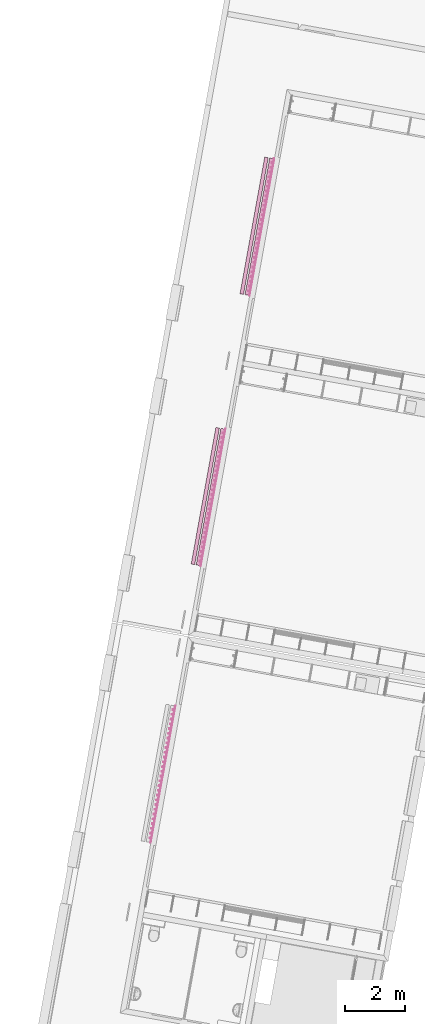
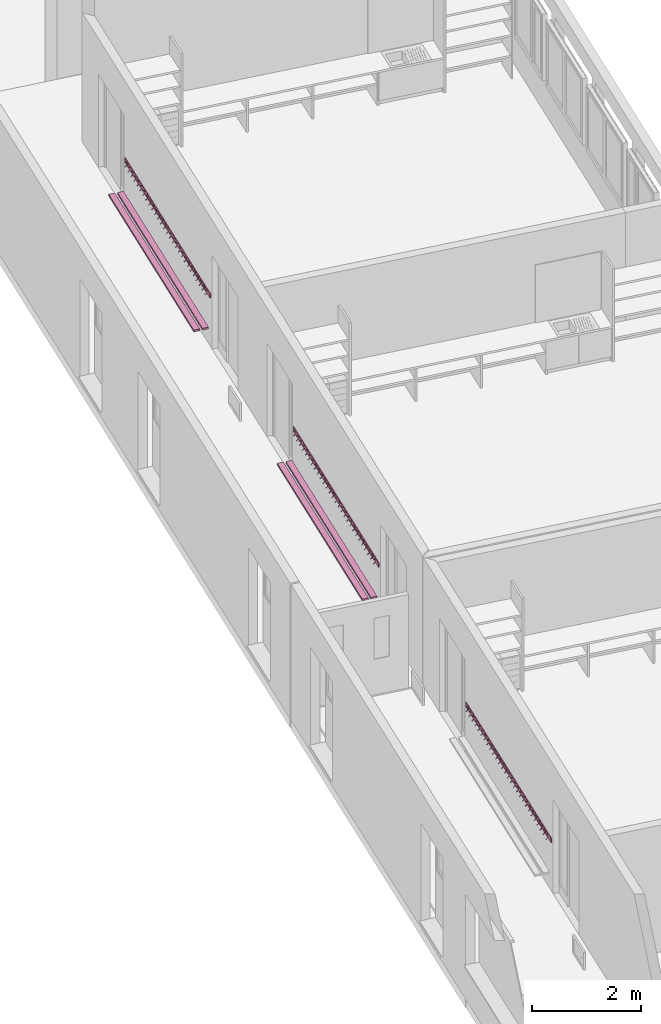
# One storey, part 6 of 52: 5 furnishings.
"""IFC2X3 building model written with IfcOpenShell, lengths in metres."""

from ifc_helpers import new_model, entity, si_unit, converted_unit, derived_unit, money_unit, direction, frame, origin_with_axes, place, context, subcontext, project, spatial, faceted_brep, source, transform, mapped, material, type_object, element, save


model = new_model("IFC2X3")

# Units and contexts
model_context = context("Model", 3, precision=1e-05, world=origin_with_axes(), true_north=direction((0.0, 1.0)))
body_context = subcontext(model_context, "Body", "Model", "MODEL_VIEW")
ifc_project = project(units=[si_unit("LENGTHUNIT", "METRE"), si_unit("AREAUNIT", "SQUARE_METRE"), si_unit("VOLUMEUNIT", "CUBIC_METRE"), converted_unit("PLANEANGLEUNIT", "DEGREE", entity("IfcPlaneAngleMeasure", 0.0174532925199), si_unit("PLANEANGLEUNIT", "RADIAN"), dimensions=[0, 0, 0, 0, 0, 0, 0]), money_unit("CHF"), converted_unit("TIMEUNIT", "Year", entity("IfcTimeMeasure", 31556926.0), si_unit("TIMEUNIT", "SECOND"), dimensions=[0, 0, 1, 0, 0, 0, 0]), si_unit("MASSUNIT", "GRAM", prefix="KILO"), si_unit("THERMODYNAMICTEMPERATUREUNIT", "DEGREE_CELSIUS"), si_unit("LUMINOUSINTENSITYUNIT", "LUMEN"), si_unit("ENERGYUNIT", "JOULE", prefix="MEGA"), derived_unit("THERMALCONDUCTANCEUNIT", [(si_unit("POWERUNIT", "WATT"), 1), (si_unit("LENGTHUNIT", "METRE"), -1), (si_unit("THERMODYNAMICTEMPERATUREUNIT", "KELVIN"), -1)]), derived_unit("SPECIFICHEATCAPACITYUNIT", [(si_unit("ENERGYUNIT", "JOULE"), 1), (si_unit("MASSUNIT", "GRAM", prefix="KILO"), -1), (si_unit("THERMODYNAMICTEMPERATUREUNIT", "KELVIN"), -1)]), derived_unit("MASSDENSITYUNIT", [(si_unit("MASSUNIT", "GRAM", prefix="KILO"), 1), (si_unit("VOLUMEUNIT", "CUBIC_METRE"), -1)])], contexts=[model_context])

# Site, building, storey
site_placement = place(None, frame((0.0, 0.0, 0.0), z_axis=(0.0, 0.0, 1.0), x_axis=(-0.177771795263, -0.984071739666, 0.0)))
site = spatial("IfcSite", under=ifc_project, at=site_placement, Name="Site", CompositionType="ELEMENT")
building_placement = place(site_placement, origin_with_axes())
building = spatial("IfcBuilding", under=site, at=building_placement, Name="Bâtiment", CompositionType="ELEMENT")
storey_placement = place(building_placement, frame((0.0, 0.0, 3.2), z_axis=(0.0, 0.0, 1.0), x_axis=(1.0, 0.0, 0.0)))
storey = spatial("IfcBuildingStorey", under=building, at=storey_placement, Name="R+1", CompositionType="ELEMENT", Elevation=3.2)

# Furnishings
ifc_material_1 = material(Name="Matériau de construction IFC")
furnishing_element_type_1 = type_object("IfcFurnishingElementType", Name="Râtelier mural 21")
shared_shape_1 = source(origin_with_axes(), body_context, "Body", "Brep", [
    faceted_brep([(-2.33000000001, 0.0, 0.0), (2.33000000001, 0.0, 0.0), (2.33000000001, -0.02, 0.0), (-2.33000000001, -0.02, 0.0), (-2.33000000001, 0.0, 0.1), (2.33000000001, 0.0, 0.1), (2.33000000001, -0.02, 0.1), (-2.33000000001, -0.02, 0.1)], [[[0, 1, 2, 3]], [[1, 0, 4, 5]], [[2, 1, 5, 6]], [[3, 2, 6, 7]], [[0, 3, 7, 4]], [[5, 4, 7, 6]]]),
    faceted_brep([(2.16862068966, -0.06, -0.015), (2.16862068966, -0.02, 0.025), (2.18862068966, -0.02, 0.025), (2.18862068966, -0.06, -0.015), (2.16862068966, -0.07, 0.0), (2.16862068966, -0.0675, 0.0), (2.16862068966, -0.06, -0.01), (2.16862068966, -0.025, 0.03), (2.16862068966, -0.025, 0.07), (2.16862068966, -0.06, 0.11), (2.16862068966, -0.06, 0.115), (2.16862068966, -0.02, 0.075), (2.18862068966, -0.02, 0.075), (2.18862068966, -0.06, 0.115), (2.18862068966, -0.06, 0.11), (2.18862068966, -0.025, 0.07), (2.18862068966, -0.025, 0.03), (2.18862068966, -0.06, -0.01), (2.18862068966, -0.0675, 0.0), (2.18862068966, -0.07, 0.0)], [[[0, 1, 2, 3]], [[0, 4, 5, 6, 7, 8, 9, 10, 11, 1]], [[1, 11, 12, 2]], [[3, 2, 12, 13, 14, 15, 16, 17, 18, 19]], [[4, 0, 3, 19]], [[5, 4, 19, 18]], [[6, 5, 18, 17]], [[7, 6, 17, 16]], [[8, 7, 16, 15]], [[9, 8, 15, 14]], [[10, 9, 14, 13]], [[11, 10, 13, 12]]]),
    faceted_brep([(2.00724137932, -0.06, -0.015), (2.00724137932, -0.02, 0.025), (2.02724137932, -0.02, 0.025), (2.02724137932, -0.06, -0.015), (2.00724137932, -0.07, 0.0), (2.00724137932, -0.0675, 0.0), (2.00724137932, -0.06, -0.01), (2.00724137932, -0.025, 0.03), (2.00724137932, -0.025, 0.07), (2.00724137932, -0.06, 0.11), (2.00724137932, -0.06, 0.115), (2.00724137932, -0.02, 0.075), (2.02724137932, -0.02, 0.075), (2.02724137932, -0.06, 0.115), (2.02724137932, -0.06, 0.11), (2.02724137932, -0.025, 0.07), (2.02724137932, -0.025, 0.03), (2.02724137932, -0.06, -0.01), (2.02724137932, -0.0675, 0.0), (2.02724137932, -0.07, 0.0)], [[[0, 1, 2, 3]], [[0, 4, 5, 6, 7, 8, 9, 10, 11, 1]], [[1, 11, 12, 2]], [[3, 2, 12, 13, 14, 15, 16, 17, 18, 19]], [[4, 0, 3, 19]], [[5, 4, 19, 18]], [[6, 5, 18, 17]], [[7, 6, 17, 16]], [[8, 7, 16, 15]], [[9, 8, 15, 14]], [[10, 9, 14, 13]], [[11, 10, 13, 12]]]),
    faceted_brep([(1.84586206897, -0.06, -0.015), (1.84586206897, -0.02, 0.025), (1.86586206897, -0.02, 0.025), (1.86586206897, -0.06, -0.015), (1.84586206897, -0.07, 0.0), (1.84586206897, -0.0675, 0.0), (1.84586206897, -0.06, -0.01), (1.84586206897, -0.025, 0.03), (1.84586206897, -0.025, 0.07), (1.84586206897, -0.06, 0.11), (1.84586206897, -0.06, 0.115), (1.84586206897, -0.02, 0.075), (1.86586206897, -0.02, 0.075), (1.86586206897, -0.06, 0.115), (1.86586206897, -0.06, 0.11), (1.86586206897, -0.025, 0.07), (1.86586206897, -0.025, 0.03), (1.86586206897, -0.06, -0.01), (1.86586206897, -0.0675, 0.0), (1.86586206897, -0.07, 0.0)], [[[0, 1, 2, 3]], [[0, 4, 5, 6, 7, 8, 9, 10, 11, 1]], [[1, 11, 12, 2]], [[3, 2, 12, 13, 14, 15, 16, 17, 18, 19]], [[4, 0, 3, 19]], [[5, 4, 19, 18]], [[6, 5, 18, 17]], [[7, 6, 17, 16]], [[8, 7, 16, 15]], [[9, 8, 15, 14]], [[10, 9, 14, 13]], [[11, 10, 13, 12]]]),
    faceted_brep([(1.68448275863, -0.06, -0.015), (1.68448275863, -0.02, 0.025), (1.70448275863, -0.02, 0.025), (1.70448275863, -0.06, -0.015), (1.68448275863, -0.07, 0.0), (1.68448275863, -0.0675, 0.0), (1.68448275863, -0.06, -0.01), (1.68448275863, -0.025, 0.03), (1.68448275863, -0.025, 0.07), (1.68448275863, -0.06, 0.11), (1.68448275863, -0.06, 0.115), (1.68448275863, -0.02, 0.075), (1.70448275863, -0.02, 0.075), (1.70448275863, -0.06, 0.115), (1.70448275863, -0.06, 0.11), (1.70448275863, -0.025, 0.07), (1.70448275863, -0.025, 0.03), (1.70448275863, -0.06, -0.01), (1.70448275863, -0.0675, 0.0), (1.70448275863, -0.07, 0.0)], [[[0, 1, 2, 3]], [[0, 4, 5, 6, 7, 8, 9, 10, 11, 1]], [[1, 11, 12, 2]], [[3, 2, 12, 13, 14, 15, 16, 17, 18, 19]], [[4, 0, 3, 19]], [[5, 4, 19, 18]], [[6, 5, 18, 17]], [[7, 6, 17, 16]], [[8, 7, 16, 15]], [[9, 8, 15, 14]], [[10, 9, 14, 13]], [[11, 10, 13, 12]]]),
    faceted_brep([(1.52310344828, -0.06, -0.015), (1.52310344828, -0.02, 0.025), (1.54310344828, -0.02, 0.025), (1.54310344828, -0.06, -0.015), (1.52310344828, -0.07, 0.0), (1.52310344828, -0.0675, 0.0), (1.52310344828, -0.06, -0.01), (1.52310344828, -0.025, 0.03), (1.52310344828, -0.025, 0.07), (1.52310344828, -0.06, 0.11), (1.52310344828, -0.06, 0.115), (1.52310344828, -0.02, 0.075), (1.54310344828, -0.02, 0.075), (1.54310344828, -0.06, 0.115), (1.54310344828, -0.06, 0.11), (1.54310344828, -0.025, 0.07), (1.54310344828, -0.025, 0.03), (1.54310344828, -0.06, -0.01), (1.54310344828, -0.0675, 0.0), (1.54310344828, -0.07, 0.0)], [[[0, 1, 2, 3]], [[0, 4, 5, 6, 7, 8, 9, 10, 11, 1]], [[1, 11, 12, 2]], [[3, 2, 12, 13, 14, 15, 16, 17, 18, 19]], [[4, 0, 3, 19]], [[5, 4, 19, 18]], [[6, 5, 18, 17]], [[7, 6, 17, 16]], [[8, 7, 16, 15]], [[9, 8, 15, 14]], [[10, 9, 14, 13]], [[11, 10, 13, 12]]]),
    faceted_brep([(1.36172413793, -0.06, -0.015), (1.36172413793, -0.02, 0.025), (1.38172413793, -0.02, 0.025), (1.38172413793, -0.06, -0.015), (1.36172413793, -0.07, 0.0), (1.36172413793, -0.0675, 0.0), (1.36172413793, -0.06, -0.01), (1.36172413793, -0.025, 0.03), (1.36172413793, -0.025, 0.07), (1.36172413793, -0.06, 0.11), (1.36172413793, -0.06, 0.115), (1.36172413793, -0.02, 0.075), (1.38172413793, -0.02, 0.075), (1.38172413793, -0.06, 0.115), (1.38172413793, -0.06, 0.11), (1.38172413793, -0.025, 0.07), (1.38172413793, -0.025, 0.03), (1.38172413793, -0.06, -0.01), (1.38172413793, -0.0675, 0.0), (1.38172413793, -0.07, 0.0)], [[[0, 1, 2, 3]], [[0, 4, 5, 6, 7, 8, 9, 10, 11, 1]], [[1, 11, 12, 2]], [[3, 2, 12, 13, 14, 15, 16, 17, 18, 19]], [[4, 0, 3, 19]], [[5, 4, 19, 18]], [[6, 5, 18, 17]], [[7, 6, 17, 16]], [[8, 7, 16, 15]], [[9, 8, 15, 14]], [[10, 9, 14, 13]], [[11, 10, 13, 12]]]),
    faceted_brep([(1.20034482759, -0.06, -0.015), (1.20034482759, -0.02, 0.025), (1.22034482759, -0.02, 0.025), (1.22034482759, -0.06, -0.015), (1.20034482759, -0.07, 0.0), (1.20034482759, -0.0675, 0.0), (1.20034482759, -0.06, -0.01), (1.20034482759, -0.025, 0.03), (1.20034482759, -0.025, 0.07), (1.20034482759, -0.06, 0.11), (1.20034482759, -0.06, 0.115), (1.20034482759, -0.02, 0.075), (1.22034482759, -0.02, 0.075), (1.22034482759, -0.06, 0.115), (1.22034482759, -0.06, 0.11), (1.22034482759, -0.025, 0.07), (1.22034482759, -0.025, 0.03), (1.22034482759, -0.06, -0.01), (1.22034482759, -0.0675, 0.0), (1.22034482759, -0.07, 0.0)], [[[0, 1, 2, 3]], [[0, 4, 5, 6, 7, 8, 9, 10, 11, 1]], [[1, 11, 12, 2]], [[3, 2, 12, 13, 14, 15, 16, 17, 18, 19]], [[4, 0, 3, 19]], [[5, 4, 19, 18]], [[6, 5, 18, 17]], [[7, 6, 17, 16]], [[8, 7, 16, 15]], [[9, 8, 15, 14]], [[10, 9, 14, 13]], [[11, 10, 13, 12]]]),
    faceted_brep([(1.03896551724, -0.06, -0.015), (1.03896551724, -0.02, 0.025), (1.05896551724, -0.02, 0.025), (1.05896551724, -0.06, -0.015), (1.03896551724, -0.07, 0.0), (1.03896551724, -0.0675, 0.0), (1.03896551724, -0.06, -0.01), (1.03896551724, -0.025, 0.03), (1.03896551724, -0.025, 0.07), (1.03896551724, -0.06, 0.11), (1.03896551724, -0.06, 0.115), (1.03896551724, -0.02, 0.075), (1.05896551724, -0.02, 0.075), (1.05896551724, -0.06, 0.115), (1.05896551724, -0.06, 0.11), (1.05896551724, -0.025, 0.07), (1.05896551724, -0.025, 0.03), (1.05896551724, -0.06, -0.01), (1.05896551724, -0.0675, 0.0), (1.05896551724, -0.07, 0.0)], [[[0, 1, 2, 3]], [[0, 4, 5, 6, 7, 8, 9, 10, 11, 1]], [[1, 11, 12, 2]], [[3, 2, 12, 13, 14, 15, 16, 17, 18, 19]], [[4, 0, 3, 19]], [[5, 4, 19, 18]], [[6, 5, 18, 17]], [[7, 6, 17, 16]], [[8, 7, 16, 15]], [[9, 8, 15, 14]], [[10, 9, 14, 13]], [[11, 10, 13, 12]]]),
    faceted_brep([(0.877586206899, -0.06, -0.015), (0.877586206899, -0.02, 0.025), (0.897586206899, -0.02, 0.025), (0.897586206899, -0.06, -0.015), (0.877586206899, -0.07, 0.0), (0.877586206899, -0.0675, 0.0), (0.877586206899, -0.06, -0.01), (0.877586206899, -0.025, 0.03), (0.877586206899, -0.025, 0.07), (0.877586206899, -0.06, 0.11), (0.877586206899, -0.06, 0.115), (0.877586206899, -0.02, 0.075), (0.897586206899, -0.02, 0.075), (0.897586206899, -0.06, 0.115), (0.897586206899, -0.06, 0.11), (0.897586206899, -0.025, 0.07), (0.897586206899, -0.025, 0.03), (0.897586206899, -0.06, -0.01), (0.897586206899, -0.0675, 0.0), (0.897586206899, -0.07, 0.0)], [[[0, 1, 2, 3]], [[0, 4, 5, 6, 7, 8, 9, 10, 11, 1]], [[1, 11, 12, 2]], [[3, 2, 12, 13, 14, 15, 16, 17, 18, 19]], [[4, 0, 3, 19]], [[5, 4, 19, 18]], [[6, 5, 18, 17]], [[7, 6, 17, 16]], [[8, 7, 16, 15]], [[9, 8, 15, 14]], [[10, 9, 14, 13]], [[11, 10, 13, 12]]]),
    faceted_brep([(0.716206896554, -0.06, -0.015), (0.716206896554, -0.02, 0.025), (0.736206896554, -0.02, 0.025), (0.736206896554, -0.06, -0.015), (0.716206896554, -0.07, 0.0), (0.716206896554, -0.0675, 0.0), (0.716206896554, -0.06, -0.01), (0.716206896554, -0.025, 0.03), (0.716206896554, -0.025, 0.07), (0.716206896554, -0.06, 0.11), (0.716206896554, -0.06, 0.115), (0.716206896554, -0.02, 0.075), (0.736206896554, -0.02, 0.075), (0.736206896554, -0.06, 0.115), (0.736206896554, -0.06, 0.11), (0.736206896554, -0.025, 0.07), (0.736206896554, -0.025, 0.03), (0.736206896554, -0.06, -0.01), (0.736206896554, -0.0675, 0.0), (0.736206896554, -0.07, 0.0)], [[[0, 1, 2, 3]], [[0, 4, 5, 6, 7, 8, 9, 10, 11, 1]], [[1, 11, 12, 2]], [[3, 2, 12, 13, 14, 15, 16, 17, 18, 19]], [[4, 0, 3, 19]], [[5, 4, 19, 18]], [[6, 5, 18, 17]], [[7, 6, 17, 16]], [[8, 7, 16, 15]], [[9, 8, 15, 14]], [[10, 9, 14, 13]], [[11, 10, 13, 12]]]),
    faceted_brep([(0.554827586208, -0.06, -0.015), (0.554827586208, -0.02, 0.025), (0.574827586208, -0.02, 0.025), (0.574827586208, -0.06, -0.015), (0.554827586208, -0.07, 0.0), (0.554827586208, -0.0675, 0.0), (0.554827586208, -0.06, -0.01), (0.554827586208, -0.025, 0.03), (0.554827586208, -0.025, 0.07), (0.554827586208, -0.06, 0.11), (0.554827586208, -0.06, 0.115), (0.554827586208, -0.02, 0.075), (0.574827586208, -0.02, 0.075), (0.574827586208, -0.06, 0.115), (0.574827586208, -0.06, 0.11), (0.574827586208, -0.025, 0.07), (0.574827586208, -0.025, 0.03), (0.574827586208, -0.06, -0.01), (0.574827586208, -0.0675, 0.0), (0.574827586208, -0.07, 0.0)], [[[0, 1, 2, 3]], [[0, 4, 5, 6, 7, 8, 9, 10, 11, 1]], [[1, 11, 12, 2]], [[3, 2, 12, 13, 14, 15, 16, 17, 18, 19]], [[4, 0, 3, 19]], [[5, 4, 19, 18]], [[6, 5, 18, 17]], [[7, 6, 17, 16]], [[8, 7, 16, 15]], [[9, 8, 15, 14]], [[10, 9, 14, 13]], [[11, 10, 13, 12]]]),
    faceted_brep([(0.393448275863, -0.06, -0.015), (0.393448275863, -0.02, 0.025), (0.413448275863, -0.02, 0.025), (0.413448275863, -0.06, -0.015), (0.393448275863, -0.07, 0.0), (0.393448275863, -0.0675, 0.0), (0.393448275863, -0.06, -0.01), (0.393448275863, -0.025, 0.03), (0.393448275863, -0.025, 0.07), (0.393448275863, -0.06, 0.11), (0.393448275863, -0.06, 0.115), (0.393448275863, -0.02, 0.075), (0.413448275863, -0.02, 0.075), (0.413448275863, -0.06, 0.115), (0.413448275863, -0.06, 0.11), (0.413448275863, -0.025, 0.07), (0.413448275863, -0.025, 0.03), (0.413448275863, -0.06, -0.01), (0.413448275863, -0.0675, 0.0), (0.413448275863, -0.07, 0.0)], [[[0, 1, 2, 3]], [[0, 4, 5, 6, 7, 8, 9, 10, 11, 1]], [[1, 11, 12, 2]], [[3, 2, 12, 13, 14, 15, 16, 17, 18, 19]], [[4, 0, 3, 19]], [[5, 4, 19, 18]], [[6, 5, 18, 17]], [[7, 6, 17, 16]], [[8, 7, 16, 15]], [[9, 8, 15, 14]], [[10, 9, 14, 13]], [[11, 10, 13, 12]]]),
    faceted_brep([(0.232068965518, -0.06, -0.015), (0.232068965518, -0.02, 0.025), (0.252068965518, -0.02, 0.025), (0.252068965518, -0.06, -0.015), (0.232068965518, -0.07, 0.0), (0.232068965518, -0.0675, 0.0), (0.232068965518, -0.06, -0.01), (0.232068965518, -0.025, 0.03), (0.232068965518, -0.025, 0.07), (0.232068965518, -0.06, 0.11), (0.232068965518, -0.06, 0.115), (0.232068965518, -0.02, 0.075), (0.252068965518, -0.02, 0.075), (0.252068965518, -0.06, 0.115), (0.252068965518, -0.06, 0.11), (0.252068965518, -0.025, 0.07), (0.252068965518, -0.025, 0.03), (0.252068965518, -0.06, -0.01), (0.252068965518, -0.0675, 0.0), (0.252068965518, -0.07, 0.0)], [[[0, 1, 2, 3]], [[0, 4, 5, 6, 7, 8, 9, 10, 11, 1]], [[1, 11, 12, 2]], [[3, 2, 12, 13, 14, 15, 16, 17, 18, 19]], [[4, 0, 3, 19]], [[5, 4, 19, 18]], [[6, 5, 18, 17]], [[7, 6, 17, 16]], [[8, 7, 16, 15]], [[9, 8, 15, 14]], [[10, 9, 14, 13]], [[11, 10, 13, 12]]]),
    faceted_brep([(0.0706896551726, -0.06, -0.015), (0.0706896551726, -0.02, 0.025), (0.0906896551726, -0.02, 0.025), (0.0906896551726, -0.06, -0.015), (0.0706896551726, -0.07, 0.0), (0.0706896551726, -0.0675, 0.0), (0.0706896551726, -0.06, -0.01), (0.0706896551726, -0.025, 0.03), (0.0706896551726, -0.025, 0.07), (0.0706896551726, -0.06, 0.11), (0.0706896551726, -0.06, 0.115), (0.0706896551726, -0.02, 0.075), (0.0906896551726, -0.02, 0.075), (0.0906896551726, -0.06, 0.115), (0.0906896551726, -0.06, 0.11), (0.0906896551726, -0.025, 0.07), (0.0906896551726, -0.025, 0.03), (0.0906896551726, -0.06, -0.01), (0.0906896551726, -0.0675, 0.0), (0.0906896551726, -0.07, 0.0)], [[[0, 1, 2, 3]], [[0, 4, 5, 6, 7, 8, 9, 10, 11, 1]], [[1, 11, 12, 2]], [[3, 2, 12, 13, 14, 15, 16, 17, 18, 19]], [[4, 0, 3, 19]], [[5, 4, 19, 18]], [[6, 5, 18, 17]], [[7, 6, 17, 16]], [[8, 7, 16, 15]], [[9, 8, 15, 14]], [[10, 9, 14, 13]], [[11, 10, 13, 12]]]),
    faceted_brep([(-0.0906896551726, -0.06, -0.015), (-0.0906896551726, -0.02, 0.025), (-0.0706896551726, -0.02, 0.025), (-0.0706896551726, -0.06, -0.015), (-0.0906896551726, -0.07, 0.0), (-0.0906896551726, -0.0675, 0.0), (-0.0906896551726, -0.06, -0.01), (-0.0906896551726, -0.025, 0.03), (-0.0906896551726, -0.025, 0.07), (-0.0906896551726, -0.06, 0.11), (-0.0906896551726, -0.06, 0.115), (-0.0906896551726, -0.02, 0.075), (-0.0706896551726, -0.02, 0.075), (-0.0706896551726, -0.06, 0.115), (-0.0706896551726, -0.06, 0.11), (-0.0706896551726, -0.025, 0.07), (-0.0706896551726, -0.025, 0.03), (-0.0706896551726, -0.06, -0.01), (-0.0706896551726, -0.0675, 0.0), (-0.0706896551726, -0.07, 0.0)], [[[0, 1, 2, 3]], [[0, 4, 5, 6, 7, 8, 9, 10, 11, 1]], [[1, 11, 12, 2]], [[3, 2, 12, 13, 14, 15, 16, 17, 18, 19]], [[4, 0, 3, 19]], [[5, 4, 19, 18]], [[6, 5, 18, 17]], [[7, 6, 17, 16]], [[8, 7, 16, 15]], [[9, 8, 15, 14]], [[10, 9, 14, 13]], [[11, 10, 13, 12]]]),
    faceted_brep([(-0.252068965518, -0.06, -0.015), (-0.252068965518, -0.02, 0.025), (-0.232068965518, -0.02, 0.025), (-0.232068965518, -0.06, -0.015), (-0.252068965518, -0.07, 0.0), (-0.252068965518, -0.0675, 0.0), (-0.252068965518, -0.06, -0.01), (-0.252068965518, -0.025, 0.03), (-0.252068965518, -0.025, 0.07), (-0.252068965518, -0.06, 0.11), (-0.252068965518, -0.06, 0.115), (-0.252068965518, -0.02, 0.075), (-0.232068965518, -0.02, 0.075), (-0.232068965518, -0.06, 0.115), (-0.232068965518, -0.06, 0.11), (-0.232068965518, -0.025, 0.07), (-0.232068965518, -0.025, 0.03), (-0.232068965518, -0.06, -0.01), (-0.232068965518, -0.0675, 0.0), (-0.232068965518, -0.07, 0.0)], [[[0, 1, 2, 3]], [[0, 4, 5, 6, 7, 8, 9, 10, 11, 1]], [[1, 11, 12, 2]], [[3, 2, 12, 13, 14, 15, 16, 17, 18, 19]], [[4, 0, 3, 19]], [[5, 4, 19, 18]], [[6, 5, 18, 17]], [[7, 6, 17, 16]], [[8, 7, 16, 15]], [[9, 8, 15, 14]], [[10, 9, 14, 13]], [[11, 10, 13, 12]]]),
    faceted_brep([(-0.413448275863, -0.06, -0.015), (-0.413448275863, -0.02, 0.025), (-0.393448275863, -0.02, 0.025), (-0.393448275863, -0.06, -0.015), (-0.413448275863, -0.07, 0.0), (-0.413448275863, -0.0675, 0.0), (-0.413448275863, -0.06, -0.01), (-0.413448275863, -0.025, 0.03), (-0.413448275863, -0.025, 0.07), (-0.413448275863, -0.06, 0.11), (-0.413448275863, -0.06, 0.115), (-0.413448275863, -0.02, 0.075), (-0.393448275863, -0.02, 0.075), (-0.393448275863, -0.06, 0.115), (-0.393448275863, -0.06, 0.11), (-0.393448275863, -0.025, 0.07), (-0.393448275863, -0.025, 0.03), (-0.393448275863, -0.06, -0.01), (-0.393448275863, -0.0675, 0.0), (-0.393448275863, -0.07, 0.0)], [[[0, 1, 2, 3]], [[0, 4, 5, 6, 7, 8, 9, 10, 11, 1]], [[1, 11, 12, 2]], [[3, 2, 12, 13, 14, 15, 16, 17, 18, 19]], [[4, 0, 3, 19]], [[5, 4, 19, 18]], [[6, 5, 18, 17]], [[7, 6, 17, 16]], [[8, 7, 16, 15]], [[9, 8, 15, 14]], [[10, 9, 14, 13]], [[11, 10, 13, 12]]]),
    faceted_brep([(-0.574827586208, -0.06, -0.015), (-0.574827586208, -0.02, 0.025), (-0.554827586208, -0.02, 0.025), (-0.554827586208, -0.06, -0.015), (-0.574827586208, -0.07, 0.0), (-0.574827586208, -0.0675, 0.0), (-0.574827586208, -0.06, -0.01), (-0.574827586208, -0.025, 0.03), (-0.574827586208, -0.025, 0.07), (-0.574827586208, -0.06, 0.11), (-0.574827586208, -0.06, 0.115), (-0.574827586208, -0.02, 0.075), (-0.554827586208, -0.02, 0.075), (-0.554827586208, -0.06, 0.115), (-0.554827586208, -0.06, 0.11), (-0.554827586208, -0.025, 0.07), (-0.554827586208, -0.025, 0.03), (-0.554827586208, -0.06, -0.01), (-0.554827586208, -0.0675, 0.0), (-0.554827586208, -0.07, 0.0)], [[[0, 1, 2, 3]], [[0, 4, 5, 6, 7, 8, 9, 10, 11, 1]], [[1, 11, 12, 2]], [[3, 2, 12, 13, 14, 15, 16, 17, 18, 19]], [[4, 0, 3, 19]], [[5, 4, 19, 18]], [[6, 5, 18, 17]], [[7, 6, 17, 16]], [[8, 7, 16, 15]], [[9, 8, 15, 14]], [[10, 9, 14, 13]], [[11, 10, 13, 12]]]),
    faceted_brep([(-0.736206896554, -0.06, -0.015), (-0.736206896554, -0.02, 0.025), (-0.716206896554, -0.02, 0.025), (-0.716206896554, -0.06, -0.015), (-0.736206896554, -0.07, 0.0), (-0.736206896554, -0.0675, 0.0), (-0.736206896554, -0.06, -0.01), (-0.736206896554, -0.025, 0.03), (-0.736206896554, -0.025, 0.07), (-0.736206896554, -0.06, 0.11), (-0.736206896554, -0.06, 0.115), (-0.736206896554, -0.02, 0.075), (-0.716206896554, -0.02, 0.075), (-0.716206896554, -0.06, 0.115), (-0.716206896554, -0.06, 0.11), (-0.716206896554, -0.025, 0.07), (-0.716206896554, -0.025, 0.03), (-0.716206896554, -0.06, -0.01), (-0.716206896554, -0.0675, 0.0), (-0.716206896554, -0.07, 0.0)], [[[0, 1, 2, 3]], [[0, 4, 5, 6, 7, 8, 9, 10, 11, 1]], [[1, 11, 12, 2]], [[3, 2, 12, 13, 14, 15, 16, 17, 18, 19]], [[4, 0, 3, 19]], [[5, 4, 19, 18]], [[6, 5, 18, 17]], [[7, 6, 17, 16]], [[8, 7, 16, 15]], [[9, 8, 15, 14]], [[10, 9, 14, 13]], [[11, 10, 13, 12]]]),
    faceted_brep([(-0.897586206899, -0.06, -0.015), (-0.897586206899, -0.02, 0.025), (-0.877586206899, -0.02, 0.025), (-0.877586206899, -0.06, -0.015), (-0.897586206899, -0.07, 0.0), (-0.897586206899, -0.0675, 0.0), (-0.897586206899, -0.06, -0.01), (-0.897586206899, -0.025, 0.03), (-0.897586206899, -0.025, 0.07), (-0.897586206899, -0.06, 0.11), (-0.897586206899, -0.06, 0.115), (-0.897586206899, -0.02, 0.075), (-0.877586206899, -0.02, 0.075), (-0.877586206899, -0.06, 0.115), (-0.877586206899, -0.06, 0.11), (-0.877586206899, -0.025, 0.07), (-0.877586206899, -0.025, 0.03), (-0.877586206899, -0.06, -0.01), (-0.877586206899, -0.0675, 0.0), (-0.877586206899, -0.07, 0.0)], [[[0, 1, 2, 3]], [[0, 4, 5, 6, 7, 8, 9, 10, 11, 1]], [[1, 11, 12, 2]], [[3, 2, 12, 13, 14, 15, 16, 17, 18, 19]], [[4, 0, 3, 19]], [[5, 4, 19, 18]], [[6, 5, 18, 17]], [[7, 6, 17, 16]], [[8, 7, 16, 15]], [[9, 8, 15, 14]], [[10, 9, 14, 13]], [[11, 10, 13, 12]]]),
    faceted_brep([(-1.05896551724, -0.06, -0.015), (-1.05896551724, -0.02, 0.025), (-1.03896551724, -0.02, 0.025), (-1.03896551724, -0.06, -0.015), (-1.05896551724, -0.07, 0.0), (-1.05896551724, -0.0675, 0.0), (-1.05896551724, -0.06, -0.01), (-1.05896551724, -0.025, 0.03), (-1.05896551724, -0.025, 0.07), (-1.05896551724, -0.06, 0.11), (-1.05896551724, -0.06, 0.115), (-1.05896551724, -0.02, 0.075), (-1.03896551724, -0.02, 0.075), (-1.03896551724, -0.06, 0.115), (-1.03896551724, -0.06, 0.11), (-1.03896551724, -0.025, 0.07), (-1.03896551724, -0.025, 0.03), (-1.03896551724, -0.06, -0.01), (-1.03896551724, -0.0675, 0.0), (-1.03896551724, -0.07, 0.0)], [[[0, 1, 2, 3]], [[0, 4, 5, 6, 7, 8, 9, 10, 11, 1]], [[1, 11, 12, 2]], [[3, 2, 12, 13, 14, 15, 16, 17, 18, 19]], [[4, 0, 3, 19]], [[5, 4, 19, 18]], [[6, 5, 18, 17]], [[7, 6, 17, 16]], [[8, 7, 16, 15]], [[9, 8, 15, 14]], [[10, 9, 14, 13]], [[11, 10, 13, 12]]]),
    faceted_brep([(-1.22034482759, -0.06, -0.015), (-1.22034482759, -0.02, 0.025), (-1.20034482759, -0.02, 0.025), (-1.20034482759, -0.06, -0.015), (-1.22034482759, -0.07, 0.0), (-1.22034482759, -0.0675, 0.0), (-1.22034482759, -0.06, -0.01), (-1.22034482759, -0.025, 0.03), (-1.22034482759, -0.025, 0.07), (-1.22034482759, -0.06, 0.11), (-1.22034482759, -0.06, 0.115), (-1.22034482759, -0.02, 0.075), (-1.20034482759, -0.02, 0.075), (-1.20034482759, -0.06, 0.115), (-1.20034482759, -0.06, 0.11), (-1.20034482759, -0.025, 0.07), (-1.20034482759, -0.025, 0.03), (-1.20034482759, -0.06, -0.01), (-1.20034482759, -0.0675, 0.0), (-1.20034482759, -0.07, 0.0)], [[[0, 1, 2, 3]], [[0, 4, 5, 6, 7, 8, 9, 10, 11, 1]], [[1, 11, 12, 2]], [[3, 2, 12, 13, 14, 15, 16, 17, 18, 19]], [[4, 0, 3, 19]], [[5, 4, 19, 18]], [[6, 5, 18, 17]], [[7, 6, 17, 16]], [[8, 7, 16, 15]], [[9, 8, 15, 14]], [[10, 9, 14, 13]], [[11, 10, 13, 12]]]),
    faceted_brep([(-1.38172413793, -0.06, -0.015), (-1.38172413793, -0.02, 0.025), (-1.36172413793, -0.02, 0.025), (-1.36172413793, -0.06, -0.015), (-1.38172413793, -0.07, 0.0), (-1.38172413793, -0.0675, 0.0), (-1.38172413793, -0.06, -0.01), (-1.38172413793, -0.025, 0.03), (-1.38172413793, -0.025, 0.07), (-1.38172413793, -0.06, 0.11), (-1.38172413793, -0.06, 0.115), (-1.38172413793, -0.02, 0.075), (-1.36172413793, -0.02, 0.075), (-1.36172413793, -0.06, 0.115), (-1.36172413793, -0.06, 0.11), (-1.36172413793, -0.025, 0.07), (-1.36172413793, -0.025, 0.03), (-1.36172413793, -0.06, -0.01), (-1.36172413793, -0.0675, 0.0), (-1.36172413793, -0.07, 0.0)], [[[0, 1, 2, 3]], [[0, 4, 5, 6, 7, 8, 9, 10, 11, 1]], [[1, 11, 12, 2]], [[3, 2, 12, 13, 14, 15, 16, 17, 18, 19]], [[4, 0, 3, 19]], [[5, 4, 19, 18]], [[6, 5, 18, 17]], [[7, 6, 17, 16]], [[8, 7, 16, 15]], [[9, 8, 15, 14]], [[10, 9, 14, 13]], [[11, 10, 13, 12]]]),
    faceted_brep([(-1.54310344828, -0.06, -0.015), (-1.54310344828, -0.02, 0.025), (-1.52310344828, -0.02, 0.025), (-1.52310344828, -0.06, -0.015), (-1.54310344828, -0.07, 0.0), (-1.54310344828, -0.0675, 0.0), (-1.54310344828, -0.06, -0.01), (-1.54310344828, -0.025, 0.03), (-1.54310344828, -0.025, 0.07), (-1.54310344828, -0.06, 0.11), (-1.54310344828, -0.06, 0.115), (-1.54310344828, -0.02, 0.075), (-1.52310344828, -0.02, 0.075), (-1.52310344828, -0.06, 0.115), (-1.52310344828, -0.06, 0.11), (-1.52310344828, -0.025, 0.07), (-1.52310344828, -0.025, 0.03), (-1.52310344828, -0.06, -0.01), (-1.52310344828, -0.0675, 0.0), (-1.52310344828, -0.07, 0.0)], [[[0, 1, 2, 3]], [[0, 4, 5, 6, 7, 8, 9, 10, 11, 1]], [[1, 11, 12, 2]], [[3, 2, 12, 13, 14, 15, 16, 17, 18, 19]], [[4, 0, 3, 19]], [[5, 4, 19, 18]], [[6, 5, 18, 17]], [[7, 6, 17, 16]], [[8, 7, 16, 15]], [[9, 8, 15, 14]], [[10, 9, 14, 13]], [[11, 10, 13, 12]]]),
    faceted_brep([(-1.70448275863, -0.06, -0.015), (-1.70448275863, -0.02, 0.025), (-1.68448275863, -0.02, 0.025), (-1.68448275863, -0.06, -0.015), (-1.70448275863, -0.07, 0.0), (-1.70448275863, -0.0675, 0.0), (-1.70448275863, -0.06, -0.01), (-1.70448275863, -0.025, 0.03), (-1.70448275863, -0.025, 0.07), (-1.70448275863, -0.06, 0.11), (-1.70448275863, -0.06, 0.115), (-1.70448275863, -0.02, 0.075), (-1.68448275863, -0.02, 0.075), (-1.68448275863, -0.06, 0.115), (-1.68448275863, -0.06, 0.11), (-1.68448275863, -0.025, 0.07), (-1.68448275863, -0.025, 0.03), (-1.68448275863, -0.06, -0.01), (-1.68448275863, -0.0675, 0.0), (-1.68448275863, -0.07, 0.0)], [[[0, 1, 2, 3]], [[0, 4, 5, 6, 7, 8, 9, 10, 11, 1]], [[1, 11, 12, 2]], [[3, 2, 12, 13, 14, 15, 16, 17, 18, 19]], [[4, 0, 3, 19]], [[5, 4, 19, 18]], [[6, 5, 18, 17]], [[7, 6, 17, 16]], [[8, 7, 16, 15]], [[9, 8, 15, 14]], [[10, 9, 14, 13]], [[11, 10, 13, 12]]]),
    faceted_brep([(-1.86586206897, -0.06, -0.015), (-1.86586206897, -0.02, 0.025), (-1.84586206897, -0.02, 0.025), (-1.84586206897, -0.06, -0.015), (-1.86586206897, -0.07, 0.0), (-1.86586206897, -0.0675, 0.0), (-1.86586206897, -0.06, -0.01), (-1.86586206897, -0.025, 0.03), (-1.86586206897, -0.025, 0.07), (-1.86586206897, -0.06, 0.11), (-1.86586206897, -0.06, 0.115), (-1.86586206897, -0.02, 0.075), (-1.84586206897, -0.02, 0.075), (-1.84586206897, -0.06, 0.115), (-1.84586206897, -0.06, 0.11), (-1.84586206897, -0.025, 0.07), (-1.84586206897, -0.025, 0.03), (-1.84586206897, -0.06, -0.01), (-1.84586206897, -0.0675, 0.0), (-1.84586206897, -0.07, 0.0)], [[[0, 1, 2, 3]], [[0, 4, 5, 6, 7, 8, 9, 10, 11, 1]], [[1, 11, 12, 2]], [[3, 2, 12, 13, 14, 15, 16, 17, 18, 19]], [[4, 0, 3, 19]], [[5, 4, 19, 18]], [[6, 5, 18, 17]], [[7, 6, 17, 16]], [[8, 7, 16, 15]], [[9, 8, 15, 14]], [[10, 9, 14, 13]], [[11, 10, 13, 12]]]),
    faceted_brep([(-2.02724137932, -0.06, -0.015), (-2.02724137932, -0.02, 0.025), (-2.00724137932, -0.02, 0.025), (-2.00724137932, -0.06, -0.015), (-2.02724137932, -0.07, 0.0), (-2.02724137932, -0.0675, 0.0), (-2.02724137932, -0.06, -0.01), (-2.02724137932, -0.025, 0.03), (-2.02724137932, -0.025, 0.07), (-2.02724137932, -0.06, 0.11), (-2.02724137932, -0.06, 0.115), (-2.02724137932, -0.02, 0.075), (-2.00724137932, -0.02, 0.075), (-2.00724137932, -0.06, 0.115), (-2.00724137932, -0.06, 0.11), (-2.00724137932, -0.025, 0.07), (-2.00724137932, -0.025, 0.03), (-2.00724137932, -0.06, -0.01), (-2.00724137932, -0.0675, 0.0), (-2.00724137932, -0.07, 0.0)], [[[0, 1, 2, 3]], [[0, 4, 5, 6, 7, 8, 9, 10, 11, 1]], [[1, 11, 12, 2]], [[3, 2, 12, 13, 14, 15, 16, 17, 18, 19]], [[4, 0, 3, 19]], [[5, 4, 19, 18]], [[6, 5, 18, 17]], [[7, 6, 17, 16]], [[8, 7, 16, 15]], [[9, 8, 15, 14]], [[10, 9, 14, 13]], [[11, 10, 13, 12]]]),
    faceted_brep([(-2.18862068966, -0.06, -0.015), (-2.18862068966, -0.02, 0.025), (-2.16862068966, -0.02, 0.025), (-2.16862068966, -0.06, -0.015), (-2.18862068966, -0.07, 0.0), (-2.18862068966, -0.0675, 0.0), (-2.18862068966, -0.06, -0.01), (-2.18862068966, -0.025, 0.03), (-2.18862068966, -0.025, 0.07), (-2.18862068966, -0.06, 0.11), (-2.18862068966, -0.06, 0.115), (-2.18862068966, -0.02, 0.075), (-2.16862068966, -0.02, 0.075), (-2.16862068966, -0.06, 0.115), (-2.16862068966, -0.06, 0.11), (-2.16862068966, -0.025, 0.07), (-2.16862068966, -0.025, 0.03), (-2.16862068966, -0.06, -0.01), (-2.16862068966, -0.0675, 0.0), (-2.16862068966, -0.07, 0.0)], [[[0, 1, 2, 3]], [[0, 4, 5, 6, 7, 8, 9, 10, 11, 1]], [[1, 11, 12, 2]], [[3, 2, 12, 13, 14, 15, 16, 17, 18, 19]], [[4, 0, 3, 19]], [[5, 4, 19, 18]], [[6, 5, 18, 17]], [[7, 6, 17, 16]], [[8, 7, 16, 15]], [[9, 8, 15, 14]], [[10, 9, 14, 13]], [[11, 10, 13, 12]]]),
])
for number, where, z_axis, x_axis, name in (
    (1, (114.604841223, -156.627151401, 1.1), (0.0, 0.0, 1.0), (1.0, 0.0, 0.0), "pateres-couloir"),
    (2, (133.185035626, -156.627251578, 1.1), (0.0, 0.0, 1.0), (1.0, 0.0, 0.0), "pateres-couloir"),
    (3, (123.784841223, -156.627151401, 1.1), (0.0, 0.0, 1.0), (1.0, 0.0, 0.0), "pateres-couloir"),
):
    element("IfcFurnishingElement", number, at=place(storey_placement, frame(where, z_axis=z_axis, x_axis=x_axis)), inside=storey, type_object=furnishing_element_type_1, material=ifc_material_1, Name=name, ObjectType="SYSTEM_FURNITURE", context=body_context, shape_type="MappedRepresentation", body=[
        mapped(shared_shape_1, transform((0.0, 0.0, 0.0))),
    ])
ifc_material_2 = material(Name="_Bois contreplaqué")
furnishing_element_type_2 = type_object("IfcFurnishingElementType", Name="Banc-couloir")
shared_shape_2 = source(origin_with_axes(), body_context, "Body", "Brep", [
    faceted_brep([(0.0, 0.0, 0.38), (2.3200000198, 0.0, 0.38), (2.3200000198, 0.0, 0.42), (0.0, 0.0, 0.42), (0.0, 0.12, 0.38), (2.3200000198, 0.12, 0.38), (2.3200000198, 0.12, 0.42), (0.0, 0.12, 0.42)], [[[0, 1, 2, 3]], [[0, 4, 5, 1]], [[1, 5, 6, 2]], [[3, 2, 6, 7]], [[4, 0, 3, 7]], [[5, 4, 7, 6]]]),
    faceted_brep([(0.0, 0.17, 0.38), (2.3200000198, 0.17, 0.38), (2.3200000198, 0.17, 0.42), (0.0, 0.17, 0.42), (0.0, 0.29, 0.38), (2.3200000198, 0.29, 0.38), (2.3200000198, 0.29, 0.42), (0.0, 0.29, 0.42)], [[[0, 1, 2, 3]], [[0, 4, 5, 1]], [[1, 5, 6, 2]], [[3, 2, 6, 7]], [[4, 0, 3, 7]], [[5, 4, 7, 6]]]),
    faceted_brep([(2.3199999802, 0.0, 0.38), (4.64, 0.0, 0.38), (4.64, 0.0, 0.42), (2.3199999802, 0.0, 0.42), (2.3199999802, 0.12, 0.38), (4.64, 0.12, 0.38), (4.64, 0.12, 0.42), (2.3199999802, 0.12, 0.42)], [[[0, 1, 2, 3]], [[0, 4, 5, 1]], [[1, 5, 6, 2]], [[3, 2, 6, 7]], [[4, 0, 3, 7]], [[5, 4, 7, 6]]]),
    faceted_brep([(2.3199999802, 0.17, 0.38), (4.64, 0.17, 0.38), (4.64, 0.17, 0.42), (2.3199999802, 0.17, 0.42), (2.3199999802, 0.29, 0.38), (4.64, 0.29, 0.38), (4.64, 0.29, 0.42), (2.3199999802, 0.29, 0.42)], [[[0, 1, 2, 3]], [[0, 4, 5, 1]], [[1, 5, 6, 2]], [[3, 2, 6, 7]], [[4, 0, 3, 7]], [[5, 4, 7, 6]]]),
])
for number, where, z_axis, x_axis, name in (
    (4, (112.284841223, -156.957151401, 0.03), (0.0, 0.0, 1.0), (1.0, 0.0, 0.0), "banc-couloir"),
    (5, (121.464841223, -156.957151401, 0.03), (0.0, 0.0, 1.0), (1.0, 0.0, 0.0), "banc-couloir"),
):
    element("IfcFurnishingElement", number, at=place(storey_placement, frame(where, z_axis=z_axis, x_axis=x_axis)), inside=storey, type_object=furnishing_element_type_2, material=ifc_material_2, Name=name, ObjectType="SYSTEM_FURNITURE", context=body_context, shape_type="MappedRepresentation", body=[
        mapped(shared_shape_2, transform((0.0, 0.0, 0.0))),
    ])

save(model, "model.ifc")
